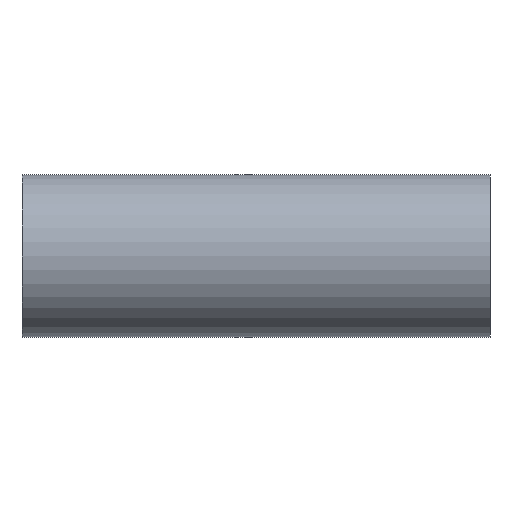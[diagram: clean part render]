
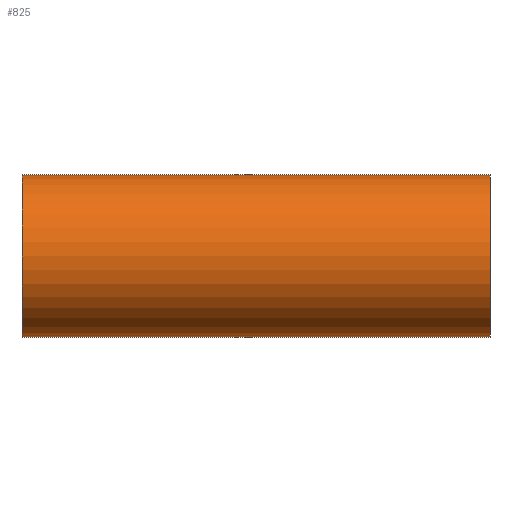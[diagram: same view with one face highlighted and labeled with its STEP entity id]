
A CAD part, front view. The second image highlights one B-rep face of the part: STEP entity #825.
In plain terms, the highlighted cylindrical face has radius 25.4 mm (diameter 50.8 mm), a partial arc.
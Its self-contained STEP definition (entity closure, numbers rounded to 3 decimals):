
#47 = EDGE_CURVE ( 'NONE', #265, #309, #153, .T. ) ;
#55 = VERTEX_POINT ( 'NONE', #1636 ) ;
#72 = LINE ( 'NONE', #313, #551 ) ;
#153 = CIRCLE ( 'NONE', #597, 25.4 ) ;
#265 = VERTEX_POINT ( 'NONE', #454 ) ;
#309 = VERTEX_POINT ( 'NONE', #526 ) ;
#313 = CARTESIAN_POINT ( 'NONE',  ( -73., 0., -25.4 ) ) ;
#322 = VERTEX_POINT ( 'NONE', #669 ) ;
#332 = DIRECTION ( 'NONE',  ( 1., 0., 0. ) ) ;
#349 = CIRCLE ( 'NONE', #556, 25.4 ) ;
#361 = AXIS2_PLACEMENT_3D ( 'NONE', #1466, #1158, #1809 ) ;
#453 = EDGE_CURVE ( 'NONE', #55, #322, #349, .T. ) ;
#454 = CARTESIAN_POINT ( 'NONE',  ( 73., 0., -25.4 ) ) ;
#526 = CARTESIAN_POINT ( 'NONE',  ( 73., 0., 25.4 ) ) ;
#551 = VECTOR ( 'NONE', #332, 1000. ) ;
#556 = AXIS2_PLACEMENT_3D ( 'NONE', #1660, #1654, #1648 ) ;
#597 = AXIS2_PLACEMENT_3D ( 'NONE', #878, #918, #928 ) ;
#605 = VECTOR ( 'NONE', #1593, 1000. ) ;
#614 = ORIENTED_EDGE ( 'NONE', *, *, #1522, .T. ) ;
#669 = CARTESIAN_POINT ( 'NONE',  ( -73., 0., -25.4 ) ) ;
#716 = ORIENTED_EDGE ( 'NONE', *, *, #47, .T. ) ;
#825 = ADVANCED_FACE ( 'NONE', ( #1581 ), #1565, .T. ) ;
#878 = CARTESIAN_POINT ( 'NONE',  ( 73., 0., 0. ) ) ;
#918 = DIRECTION ( 'NONE',  ( -1., 0., 0. ) ) ;
#928 = DIRECTION ( 'NONE',  ( 0., 0., -1. ) ) ;
#955 = EDGE_CURVE ( 'NONE', #55, #309, #1539, .T. ) ;
#1158 = DIRECTION ( 'NONE',  ( 1., 0., 0. ) ) ;
#1221 = EDGE_LOOP ( 'NONE', ( #1474, #1422, #614, #716 ) ) ;
#1422 = ORIENTED_EDGE ( 'NONE', *, *, #453, .T. ) ;
#1466 = CARTESIAN_POINT ( 'NONE',  ( -73., 0., 0. ) ) ;
#1474 = ORIENTED_EDGE ( 'NONE', *, *, #955, .F. ) ;
#1522 = EDGE_CURVE ( 'NONE', #322, #265, #72, .T. ) ;
#1539 = LINE ( 'NONE', #1551, #605 ) ;
#1551 = CARTESIAN_POINT ( 'NONE',  ( -73., 0., 25.4 ) ) ;
#1565 = CYLINDRICAL_SURFACE ( 'NONE', #361, 25.4 ) ;
#1581 = FACE_OUTER_BOUND ( 'NONE', #1221, .T. ) ;
#1593 = DIRECTION ( 'NONE',  ( 1., 0., 0. ) ) ;
#1636 = CARTESIAN_POINT ( 'NONE',  ( -73., 0., 25.4 ) ) ;
#1648 = DIRECTION ( 'NONE',  ( 0., 0., -1. ) ) ;
#1654 = DIRECTION ( 'NONE',  ( 1., 0., 0. ) ) ;
#1660 = CARTESIAN_POINT ( 'NONE',  ( -73., 0., 0. ) ) ;
#1809 = DIRECTION ( 'NONE',  ( 0., 0., -1. ) ) ;
